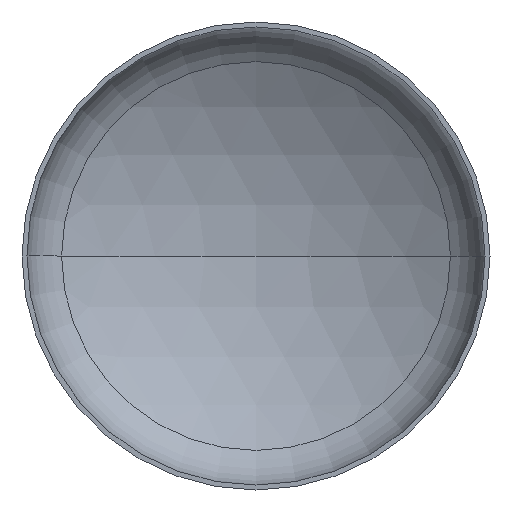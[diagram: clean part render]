
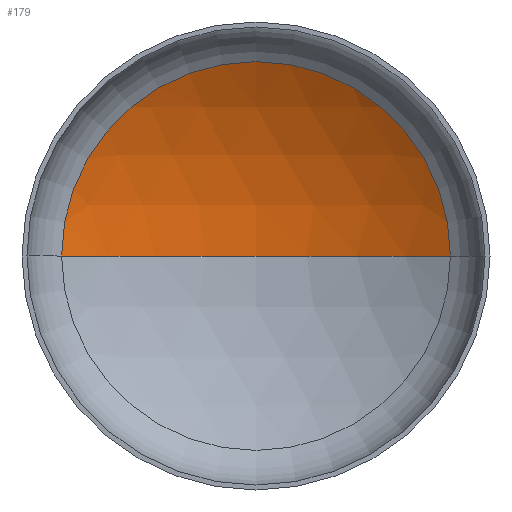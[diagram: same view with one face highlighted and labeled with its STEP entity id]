
A CAD part, front view. The second image highlights one B-rep face of the part: STEP entity #179.
In plain terms, the highlighted spherical face has radius 2880 mm.
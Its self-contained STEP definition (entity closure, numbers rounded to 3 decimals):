
#4 = CARTESIAN_POINT ( 'NONE',  ( 0., -1867.153, 0. ) ) ;
#17 = ORIENTED_EDGE ( 'NONE', *, *, #78, .T. ) ;
#18 = AXIS2_PLACEMENT_3D ( 'NONE', #276, #213, #201 ) ;
#22 = EDGE_LOOP ( 'NONE', ( #98, #17, #86 ) ) ;
#27 = AXIS2_PLACEMENT_3D ( 'NONE', #4, #373, #99 ) ;
#29 = AXIS2_PLACEMENT_3D ( 'NONE', #198, #199, #280 ) ;
#31 = AXIS2_PLACEMENT_3D ( 'NONE', #217, #209, #207 ) ;
#76 = EDGE_CURVE ( 'NONE', #87, #131, #346, .T. ) ;
#78 = EDGE_CURVE ( 'NONE', #129, #87, #229, .T. ) ;
#79 = EDGE_CURVE ( 'NONE', #129, #131, #224, .T. ) ;
#86 = ORIENTED_EDGE ( 'NONE', *, *, #76, .T. ) ;
#87 = VERTEX_POINT ( 'NONE', #117 ) ;
#98 = ORIENTED_EDGE ( 'NONE', *, *, #79, .F. ) ;
#99 = DIRECTION ( 'NONE',  ( 1., 0., 0. ) ) ;
#117 = CARTESIAN_POINT ( 'NONE',  ( 1495.123, 594.353, 0. ) ) ;
#129 = VERTEX_POINT ( 'NONE', #236 ) ;
#131 = VERTEX_POINT ( 'NONE', #191 ) ;
#138 = FACE_OUTER_BOUND ( 'NONE', #22, .T. ) ;
#179 = ADVANCED_FACE ( 'NONE', ( #138 ), #336, .F. ) ;
#191 = CARTESIAN_POINT ( 'NONE',  ( -1495.123, 594.353, 0. ) ) ;
#198 = CARTESIAN_POINT ( 'NONE',  ( 0., -1867.153, 0. ) ) ;
#199 = DIRECTION ( 'NONE',  ( 0., 0., -1. ) ) ;
#201 = DIRECTION ( 'NONE',  ( -1., 0., 0. ) ) ;
#207 = DIRECTION ( 'NONE',  ( 1., 0., 0. ) ) ;
#209 = DIRECTION ( 'NONE',  ( 0., -1., 0. ) ) ;
#213 = DIRECTION ( 'NONE',  ( 0., 0., -1. ) ) ;
#217 = CARTESIAN_POINT ( 'NONE',  ( 0., 594.353, 0. ) ) ;
#224 = CIRCLE ( 'NONE', #27, 2880. ) ;
#229 = CIRCLE ( 'NONE', #29, 2880. ) ;
#236 = CARTESIAN_POINT ( 'NONE',  ( 0., 1012.847, 0. ) ) ;
#276 = CARTESIAN_POINT ( 'NONE',  ( 0., -1867.153, 0. ) ) ;
#280 = DIRECTION ( 'NONE',  ( -1., 0., 0. ) ) ;
#336 = SPHERICAL_SURFACE ( 'NONE', #18, 2880. ) ;
#346 = CIRCLE ( 'NONE', #31, 1495.123 ) ;
#373 = DIRECTION ( 'NONE',  ( 0., 0., 1. ) ) ;
